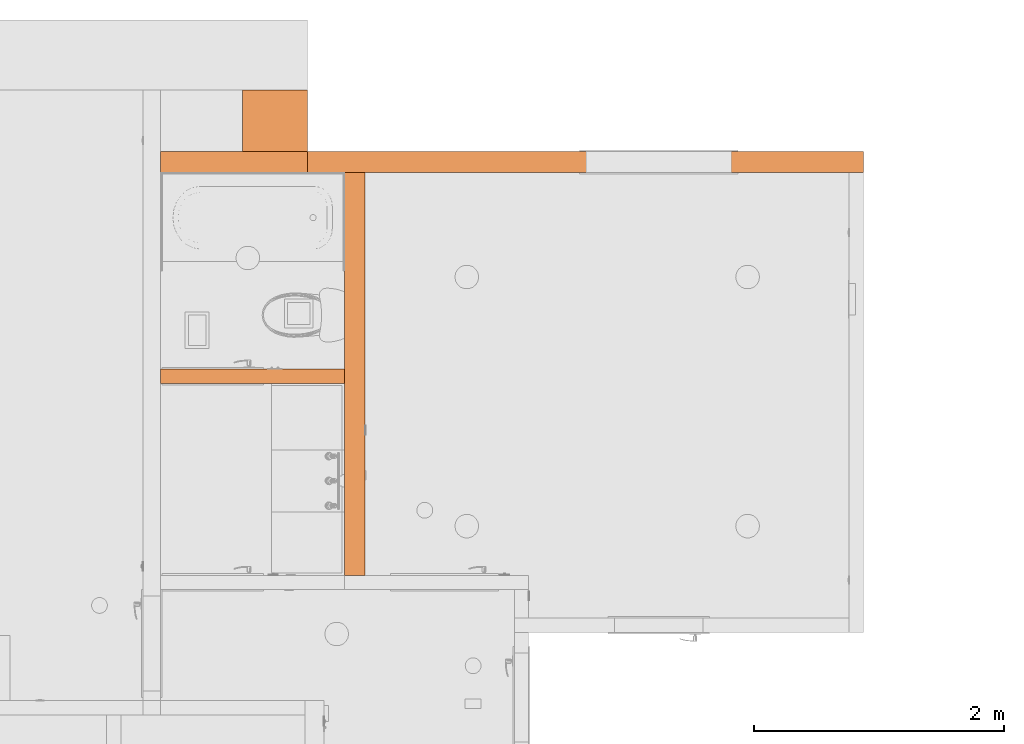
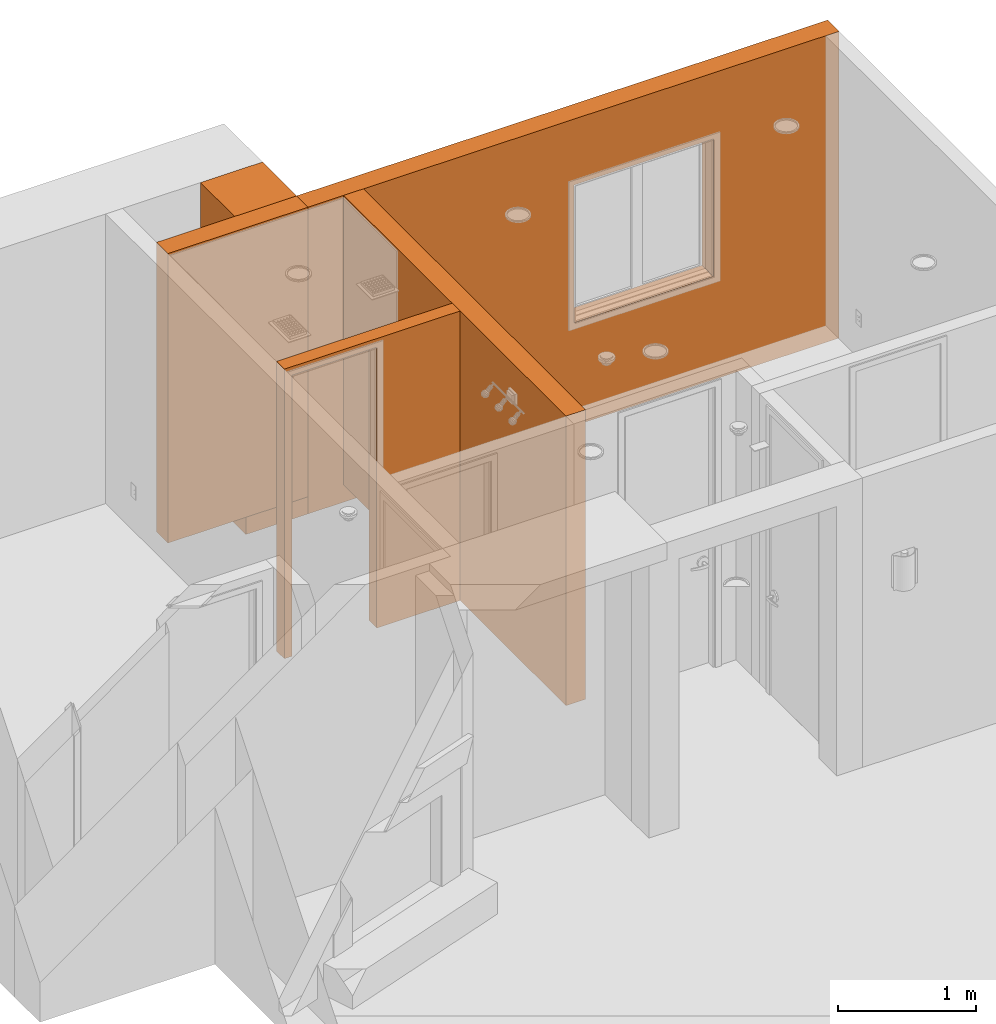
# One storey, part 45 of 48: 5 proxies.
"""IFC2X3 building model written with IfcOpenShell, lengths in inches."""

from ifc_helpers import new_model, entity, si_unit, converted_unit, derived_unit, money_unit, direction, frame, origin_with_axes, place, context, subcontext, project, spatial, faceted_brep, material, type_object, element, save


model = new_model("IFC2X3")

# Units and contexts
model_context = context("Model", 3, precision=0.00039370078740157, world=origin_with_axes(), true_north=direction((0.0, 1.0)))
plan_context = context("Plan", 3, precision=0.00039370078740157, world=origin_with_axes(), true_north=direction((0.0, 1.0)))
body_context = subcontext(model_context, "Body", "Model", "MODEL_VIEW")
ifc_project = project(units=[converted_unit("LENGTHUNIT", "INCH", entity("IfcPositiveLengthMeasure", 0.0254), si_unit("LENGTHUNIT", "METRE"), dimensions=[1, 0, 0, 0, 0, 0, 0]), converted_unit("AREAUNIT", "SQUARE_FOOT", entity("IfcPositiveLengthMeasure", 0.09290304), si_unit("AREAUNIT", "SQUARE_METRE"), dimensions=[2, 0, 0, 0, 0, 0, 0]), si_unit("PLANEANGLEUNIT", "RADIAN"), si_unit("SOLIDANGLEUNIT", "STERADIAN"), money_unit("USD"), converted_unit("TIMEUNIT", "Year", entity("IfcTimeMeasure", 31557600.0), si_unit("TIMEUNIT", "SECOND"), dimensions=[0, 0, 1, 0, 0, 0, 0]), si_unit("MASSUNIT", "GRAM", prefix="KILO"), si_unit("THERMODYNAMICTEMPERATUREUNIT", "DEGREE_CELSIUS"), si_unit("LUMINOUSINTENSITYUNIT", "LUMEN"), si_unit("ENERGYUNIT", "JOULE", prefix="MEGA"), derived_unit("SPECIFICHEATCAPACITYUNIT", [(si_unit("ENERGYUNIT", "JOULE"), 1), (si_unit("MASSUNIT", "GRAM", prefix="KILO"), -1), (si_unit("THERMODYNAMICTEMPERATUREUNIT", "KELVIN"), -1)])], contexts=[model_context, plan_context])

# Site, building, storey
site_placement = place(None, origin_with_axes())
site = spatial("IfcSite", under=ifc_project, at=site_placement, Name="Site", CompositionType="ELEMENT")
building_placement = place(site_placement, origin_with_axes())
building = spatial("IfcBuilding", under=site, at=building_placement, Name="Building", CompositionType="ELEMENT")
storey_placement = place(building_placement, origin_with_axes())
storey = spatial("IfcBuildingStorey", under=building, at=storey_placement, Name="First Floor", CompositionType="ELEMENT", Elevation=0.0)

# Proxies
ifc_material = material(Name="Generic - Structural")
building_element_proxy_type_1 = type_object("IfcBuildingElementProxyType", Name="Generic - Structural 6 1/2\"", PredefinedType="NOTDEFINED")
proxy_1_placement = place(storey_placement, frame((101.4999999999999, 553.499999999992, -5.99999999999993), z_axis=(0.0, 0.0, 1.0), x_axis=(-1.0, 0.0, 0.0)))
element("IfcBuildingElementProxy", 1, at=proxy_1_placement, inside=storey, type_object=building_element_proxy_type_1, material=ifc_material, Name="SW - 055", context=body_context, shape_type="Brep", body=[
    faceted_brep([(170.7499999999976, 0.0, 106.9999999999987), (170.7499999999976, 0.0, 0.0), (-4.499999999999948, 0.0, 0.0), (-4.499999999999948, 0.0, 106.9999999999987), (82.999999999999, 0.0, 35.99999999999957), (82.999999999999, 0.0, 83.99999999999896), (36.99999999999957, 0.0, 83.99999999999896), (36.99999999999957, 0.0, 35.99999999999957), (170.7499999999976, -6.499999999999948, 106.9999999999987), (170.7499999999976, -6.499999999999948, 0.0), (-4.499999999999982, -6.499999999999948, 0.0), (-4.499999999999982, -6.499999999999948, 106.9999999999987), (82.999999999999, -6.499999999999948, 35.99999999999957), (82.999999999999, -6.499999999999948, 83.99999999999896), (36.99999999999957, -6.499999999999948, 83.99999999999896), (36.99999999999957, -6.499999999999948, 35.99999999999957)], [[[0, 1, 2, 3], [4, 5, 6, 7]], [[1, 0, 8, 9]], [[1, 9, 10, 2]], [[2, 10, 11, 3]], [[8, 0, 3, 11]], [[12, 13, 5, 4]], [[13, 14, 6, 5]], [[14, 15, 7, 6]], [[15, 12, 4, 7]], [[9, 8, 11, 10], [12, 15, 14, 13]]]),
])
proxy_2_placement = place(storey_placement, frame((-120.9999999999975, 553.4999999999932, 0.0), z_axis=(0.0, 0.0, 1.0), x_axis=(1.0, 0.0, 0.0)))
element("IfcBuildingElementProxy", 2, at=proxy_2_placement, inside=storey, type_object=building_element_proxy_type_1, material=ifc_material, Name="SW - 146", context=body_context, shape_type="Brep", body=[
    faceted_brep([(5.500000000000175, 0.0, 100.9999999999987), (51.74999999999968, 0.0, 100.9999999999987), (51.74999999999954, 6.500000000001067, 100.9999999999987), (5.500000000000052, 6.500000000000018, 100.9999999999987), (5.500000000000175, 0.0, 0.0), (51.74999999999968, 0.0, 0.0), (51.74999999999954, 6.500000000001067, 0.0), (5.500000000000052, 6.500000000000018, 0.0)], [[[0, 1, 2, 3]], [[4, 5, 1, 0]], [[2, 1, 5, 6]], [[3, 2, 6, 7]], [[4, 0, 3, 7]], [[7, 6, 5, 4]]]),
])
proxy_3_placement = place(storey_placement, frame((-50.99952807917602, 553.4999999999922, 0.0), z_axis=(0.0, 0.0, 1.0), x_axis=(0.0, -1.0, 0.0)))
element("IfcBuildingElementProxy", 3, at=proxy_3_placement, inside=storey, type_object=building_element_proxy_type_1, material=ifc_material, Name="SW - 056", context=body_context, shape_type="Brep", body=[
    faceted_brep([(126.9999999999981, 0.0, 0.0), (126.9999999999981, -6.49999999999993, 0.0), (0.0, -6.499999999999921, 0.0), (0.0, 0.0, 0.0), (126.9999999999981, 0.0, 100.9999999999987), (126.9999999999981, -6.499999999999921, 100.9999999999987), (0.0, -6.499999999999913, 100.9999999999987), (0.0, 0.0, 100.9999999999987)], [[[0, 1, 2, 3]], [[1, 0, 4, 5]], [[1, 5, 6, 2]], [[7, 3, 2, 6]], [[4, 0, 3, 7]], [[5, 4, 7, 6]]]),
])
building_element_proxy_type_2 = type_object("IfcBuildingElementProxyType", Name="Generic - Structural 4 1/2\"", PredefinedType="NOTDEFINED")
proxy_4_placement = place(storey_placement, frame((-120.9999999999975, 486.9999999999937, 0.0), z_axis=(0.0, 0.0, 1.0), x_axis=(1.0, 0.0, 0.0)))
element("IfcBuildingElementProxy", 4, at=proxy_4_placement, inside=storey, type_object=building_element_proxy_type_2, material=ifc_material, Name="SW - 066", context=body_context, shape_type="Brep", body=[
    faceted_brep([(8.000000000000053, 4.499999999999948, 97.99999999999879), (8.000000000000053, 4.499999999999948, 0.0), (5.500000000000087, 4.499999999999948, 0.0), (5.500000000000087, 4.499999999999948, 100.9999999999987), (63.50047192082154, 4.499999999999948, 100.9999999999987), (63.50047192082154, 4.499999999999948, 0.0), (35.9999999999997, 4.499999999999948, 0.0), (35.9999999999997, 4.499999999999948, 97.99999999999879), (8.000000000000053, 0.0, 97.99999999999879), (8.000000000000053, 0.0, 0.0), (5.50000000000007, 0.0, 0.0), (5.50000000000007, 0.0, 100.9999999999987), (63.50047192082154, 0.0, 100.9999999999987), (63.50047192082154, 0.0, 0.0), (35.9999999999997, 0.0, 0.0), (35.9999999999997, 0.0, 97.99999999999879)], [[[0, 1, 2, 3, 4, 5, 6, 7]], [[1, 0, 8, 9]], [[1, 9, 10, 2]], [[11, 3, 2, 10]], [[4, 3, 11, 12]], [[12, 13, 5, 4]], [[14, 6, 5, 13]], [[7, 6, 14, 15]], [[0, 7, 15, 8]], [[15, 14, 13, 12, 11, 10, 9, 8]]]),
])
building_element_proxy_type_3 = type_object("IfcBuildingElementProxyType", Name="Generic - Structural 20 1/2\"", PredefinedType="NOTDEFINED")
proxy_5_placement = place(storey_placement, frame((-89.74999767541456, 579.4999999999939, -5.99999999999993), z_axis=(0.0, 0.0, 1.0), x_axis=(0.0, -1.0, 0.0)))
element("IfcBuildingElementProxy", 5, at=proxy_5_placement, inside=storey, type_object=building_element_proxy_type_3, material=ifc_material, Name="SW - 053", context=body_context, shape_type="Brep", body=[
    faceted_brep([(0.0, 0.0, 106.9999999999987), (19.50000000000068, 0.0, 106.9999999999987), (19.50000000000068, 20.49999767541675, 106.9999999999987), (0.0, 20.49999999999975, 106.9999999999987), (26.00000000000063, 0.0, 5.99999999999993), (19.50000000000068, 0.0, 5.99999999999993), (0.0, 0.0, 0.0), (26.00000000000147, 0.0, 0.0), (19.50000000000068, 20.49999767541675, 5.99999999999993), (26.00000000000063, 20.49999767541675, 5.99999999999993), (26.00000000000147, 20.49999999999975, 0.0), (0.0, 20.49999999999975, 0.0)], [[[0, 1, 2, 3]], [[4, 5, 1, 0, 6, 7]], [[5, 8, 2, 1]], [[2, 8, 9, 10, 11, 3]], [[11, 6, 0, 3]], [[4, 9, 8, 5]], [[6, 11, 10, 7]], [[10, 9, 4, 7]]]),
])

save(model, "model.ifc")
